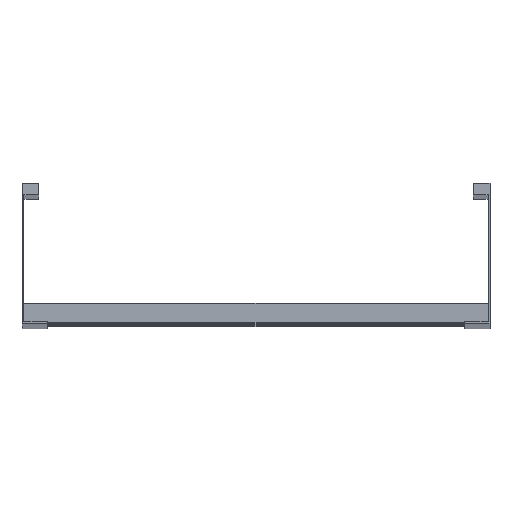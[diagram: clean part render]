
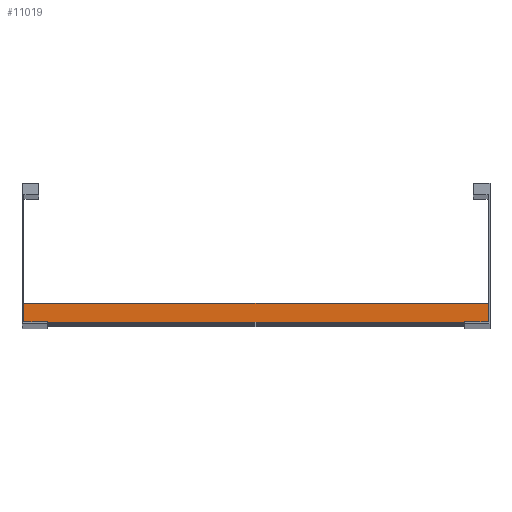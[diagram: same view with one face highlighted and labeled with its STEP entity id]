
A CAD part, top view. The second image highlights one B-rep face of the part: STEP entity #11019.
In plain terms, the highlighted planar face has unit normal (0, 0, 1).
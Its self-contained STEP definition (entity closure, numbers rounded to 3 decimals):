
#125 = ORIENTED_EDGE ( 'NONE', *, *, #3500, .F. ) ;
#1046 = EDGE_CURVE ( 'NONE', #1607, #10876, #10176, .T. ) ;
#1369 = FACE_OUTER_BOUND ( 'NONE', #2909, .T. ) ;
#1442 = VERTEX_POINT ( 'NONE', #6816 ) ;
#1486 = DIRECTION ( 'NONE',  ( 0., 1., 0. ) ) ;
#1607 = VERTEX_POINT ( 'NONE', #4602 ) ;
#1860 = EDGE_CURVE ( 'NONE', #1442, #9000, #5181, .T. ) ;
#2459 = CARTESIAN_POINT ( 'NONE',  ( 248., 0., 20.25 ) ) ;
#2909 = EDGE_LOOP ( 'NONE', ( #11190, #9522, #125, #4335 ) ) ;
#3500 = EDGE_CURVE ( 'NONE', #1607, #1442, #7731, .T. ) ;
#3754 = AXIS2_PLACEMENT_3D ( 'NONE', #8599, #5098, #1486 ) ;
#4288 = EDGE_CURVE ( 'NONE', #10876, #9000, #7522, .T. ) ;
#4335 = ORIENTED_EDGE ( 'NONE', *, *, #1046, .T. ) ;
#4602 = CARTESIAN_POINT ( 'NONE',  ( 248., 20., 20.25 ) ) ;
#5098 = DIRECTION ( 'NONE',  ( 0., 0., -1. ) ) ;
#5117 = DIRECTION ( 'NONE',  ( 0., -1., 0. ) ) ;
#5181 = LINE ( 'NONE', #2459, #7998 ) ;
#5201 = VECTOR ( 'NONE', #10410, 1000. ) ;
#5723 = CARTESIAN_POINT ( 'NONE',  ( -248., 20., 20.25 ) ) ;
#5900 = DIRECTION ( 'NONE',  ( 0., -1., 0. ) ) ;
#6755 = DIRECTION ( 'NONE',  ( -1., 0., 0. ) ) ;
#6816 = CARTESIAN_POINT ( 'NONE',  ( 248., 0., 20.25 ) ) ;
#7522 = LINE ( 'NONE', #5723, #7991 ) ;
#7685 = CARTESIAN_POINT ( 'NONE',  ( -248., 0., 20.25 ) ) ;
#7731 = LINE ( 'NONE', #9544, #10037 ) ;
#7991 = VECTOR ( 'NONE', #5900, 1000. ) ;
#7998 = VECTOR ( 'NONE', #6755, 1000. ) ;
#8486 = CARTESIAN_POINT ( 'NONE',  ( 248., 20., 20.25 ) ) ;
#8599 = CARTESIAN_POINT ( 'NONE',  ( 248., 20., 20.25 ) ) ;
#9000 = VERTEX_POINT ( 'NONE', #7685 ) ;
#9522 = ORIENTED_EDGE ( 'NONE', *, *, #1860, .F. ) ;
#9544 = CARTESIAN_POINT ( 'NONE',  ( 248., 20., 20.25 ) ) ;
#10037 = VECTOR ( 'NONE', #5117, 1000. ) ;
#10176 = LINE ( 'NONE', #8486, #5201 ) ;
#10410 = DIRECTION ( 'NONE',  ( -1., 0., 0. ) ) ;
#10876 = VERTEX_POINT ( 'NONE', #10908 ) ;
#10908 = CARTESIAN_POINT ( 'NONE',  ( -248., 20., 20.25 ) ) ;
#11019 = ADVANCED_FACE ( 'NONE', ( #1369 ), #11214, .F. ) ;
#11190 = ORIENTED_EDGE ( 'NONE', *, *, #4288, .T. ) ;
#11214 = PLANE ( 'NONE',  #3754 ) ;
